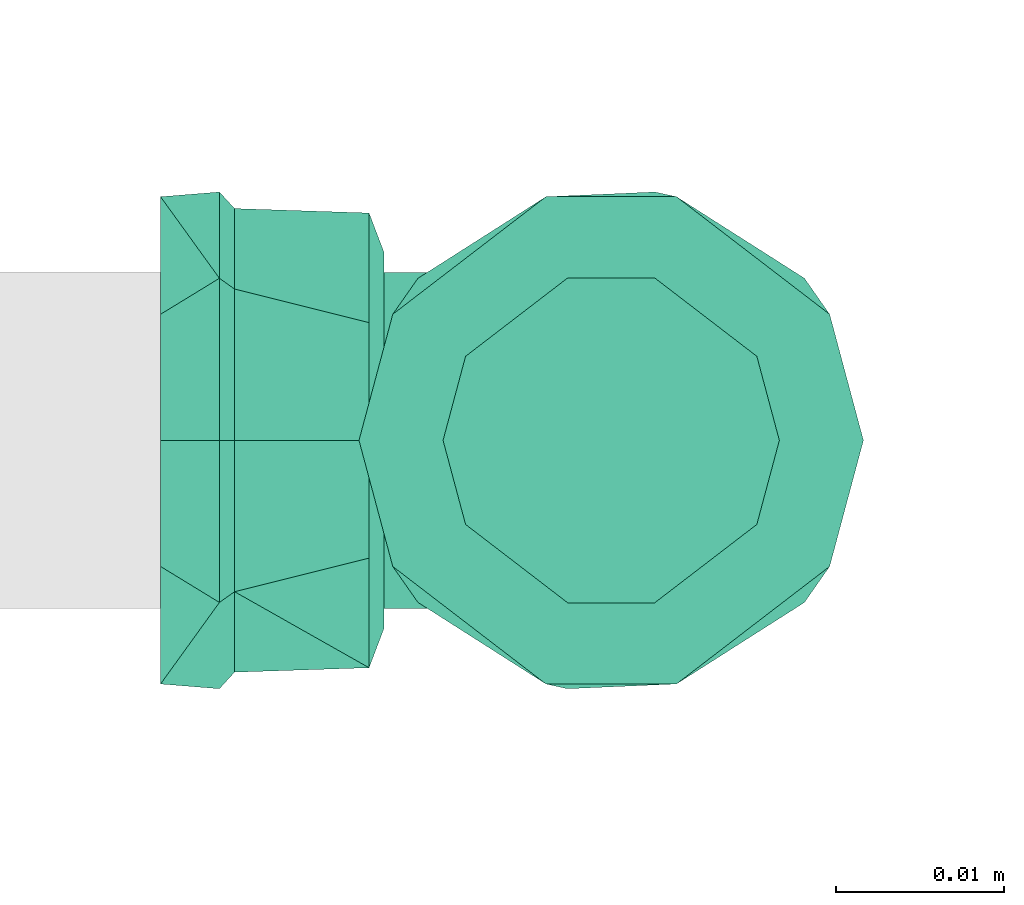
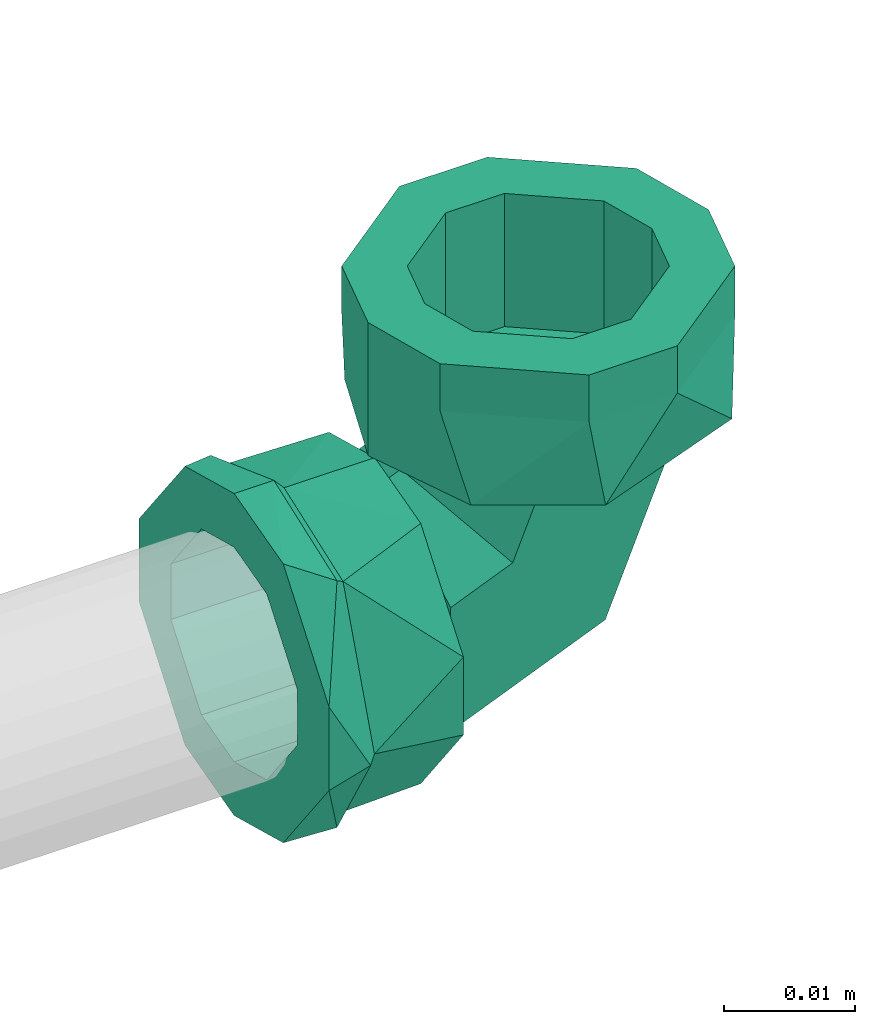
# One storey, part 309 of 589: 1 flow fitting.
"""IFC2X3 building model written with IfcOpenShell, lengths in millimetres."""

from ifc_helpers import new_model, entity, si_unit, converted_unit, derived_unit, direction, frame, origin, place, context, subcontext, project, spatial, faceted_brep, source, transform, mapped, material, type_object, type_shapes, element, save


model = new_model("IFC2X3")

# Units and contexts
model_context = context("Model", 3, precision=0.01, world=origin(), true_north=direction((6.123031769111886e-17, 1.0)))
body_context = subcontext(model_context, "Body", "Model", "MODEL_VIEW")
ifc_project = project(units=[si_unit("LENGTHUNIT", "METRE", prefix="MILLI"), si_unit("AREAUNIT", "SQUARE_METRE"), si_unit("VOLUMEUNIT", "CUBIC_METRE"), converted_unit("PLANEANGLEUNIT", "DEGREE", entity("IfcRatioMeasure", 0.017453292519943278), si_unit("PLANEANGLEUNIT", "RADIAN"), dimensions=[0, 0, 0, 0, 0, 0, 0]), si_unit("MASSUNIT", "GRAM", prefix="KILO"), derived_unit("MASSDENSITYUNIT", [(si_unit("MASSUNIT", "GRAM", prefix="KILO"), 1), (si_unit("LENGTHUNIT", "METRE"), -3)]), derived_unit("IONCONCENTRATIONUNIT", [(si_unit("MASSUNIT", "GRAM", prefix="KILO"), 1), (si_unit("LENGTHUNIT", "METRE"), -3)]), derived_unit("MOMENTOFINERTIAUNIT", [(si_unit("LENGTHUNIT", "METRE"), 4)]), si_unit("TIMEUNIT", "SECOND"), si_unit("FREQUENCYUNIT", "HERTZ"), si_unit("THERMODYNAMICTEMPERATUREUNIT", "DEGREE_CELSIUS"), derived_unit("THERMALTRANSMITTANCEUNIT", [(si_unit("MASSUNIT", "GRAM", prefix="KILO"), 1), (si_unit("THERMODYNAMICTEMPERATUREUNIT", "KELVIN"), -1), (si_unit("TIMEUNIT", "SECOND"), -3)]), derived_unit("THERMALCONDUCTANCEUNIT", [(si_unit("MASSUNIT", "GRAM", prefix="KILO"), 1), (si_unit("THERMODYNAMICTEMPERATUREUNIT", "KELVIN"), -1), (si_unit("TIMEUNIT", "SECOND"), -3), (si_unit("LENGTHUNIT", "METRE"), 1)]), derived_unit("VOLUMETRICFLOWRATEUNIT", [(si_unit("LENGTHUNIT", "METRE"), 3), (si_unit("TIMEUNIT", "SECOND"), -1)]), derived_unit("MASSFLOWRATEUNIT", [(si_unit("MASSUNIT", "GRAM", prefix="KILO"), 1), (si_unit("TIMEUNIT", "SECOND"), -1)]), derived_unit("ROTATIONALFREQUENCYUNIT", [(si_unit("TIMEUNIT", "SECOND"), -1)]), si_unit("ELECTRICCURRENTUNIT", "AMPERE"), si_unit("ELECTRICVOLTAGEUNIT", "VOLT"), si_unit("POWERUNIT", "WATT"), si_unit("FORCEUNIT", "NEWTON", prefix="KILO"), si_unit("ILLUMINANCEUNIT", "LUX"), si_unit("LUMINOUSFLUXUNIT", "LUMEN"), si_unit("LUMINOUSINTENSITYUNIT", "CANDELA"), derived_unit("USERDEFINED", [(si_unit("MASSUNIT", "GRAM", prefix="KILO"), -1), (si_unit("LENGTHUNIT", "METRE"), -2), (si_unit("TIMEUNIT", "SECOND"), 3), (si_unit("LUMINOUSFLUXUNIT", "LUMEN"), 1)]), derived_unit("USERDEFINED", [(si_unit("MASSUNIT", "GRAM", prefix="KILO"), 1), (si_unit("TIMEUNIT", "SECOND"), -3), (si_unit("LENGTHUNIT", "METRE"), 3), (si_unit("ELECTRICCURRENTUNIT", "AMPERE"), -2)]), derived_unit("SOUNDPOWERUNIT", [(si_unit("MASSUNIT", "GRAM", prefix="KILO"), 1), (si_unit("TIMEUNIT", "SECOND"), -3), (si_unit("LENGTHUNIT", "METRE"), 2)]), derived_unit("SOUNDPRESSUREUNIT", [(si_unit("MASSUNIT", "GRAM", prefix="KILO"), 1), (si_unit("LENGTHUNIT", "METRE"), -1), (si_unit("TIMEUNIT", "SECOND"), -2)]), derived_unit("LINEARVELOCITYUNIT", [(si_unit("LENGTHUNIT", "METRE"), 1), (si_unit("TIMEUNIT", "SECOND"), -1)]), si_unit("PRESSUREUNIT", "PASCAL"), derived_unit("USERDEFINED", [(si_unit("MASSUNIT", "GRAM", prefix="KILO"), 1), (si_unit("LENGTHUNIT", "METRE"), -2), (si_unit("TIMEUNIT", "SECOND"), -2)]), derived_unit("LINEARFORCEUNIT", [(si_unit("MASSUNIT", "GRAM", prefix="KILO"), 1), (si_unit("TIMEUNIT", "SECOND"), -2)]), derived_unit("PLANARFORCEUNIT", [(si_unit("MASSUNIT", "GRAM", prefix="KILO"), 1), (si_unit("LENGTHUNIT", "METRE"), -1), (si_unit("TIMEUNIT", "SECOND"), -2)]), derived_unit("SPECIFICHEATCAPACITYUNIT", [(si_unit("THERMODYNAMICTEMPERATUREUNIT", "KELVIN"), -1), (si_unit("LENGTHUNIT", "METRE"), 2), (si_unit("TIMEUNIT", "SECOND"), -2)]), derived_unit("HEATINGVALUEUNIT", [(si_unit("LENGTHUNIT", "METRE"), 2), (si_unit("TIMEUNIT", "SECOND"), -2)]), derived_unit("VAPORPERMEABILITYUNIT", [(si_unit("LENGTHUNIT", "METRE"), -1), (si_unit("TIMEUNIT", "SECOND"), 1)]), derived_unit("DYNAMICVISCOSITYUNIT", [(si_unit("MASSUNIT", "GRAM", prefix="KILO"), 1), (si_unit("TIMEUNIT", "SECOND"), -1), (si_unit("LENGTHUNIT", "METRE"), -1)]), derived_unit("THERMALEXPANSIONCOEFFICIENTUNIT", [(si_unit("THERMODYNAMICTEMPERATUREUNIT", "KELVIN"), -1)]), derived_unit("MODULUSOFELASTICITYUNIT", [(si_unit("MASSUNIT", "GRAM", prefix="KILO"), 1), (si_unit("LENGTHUNIT", "METRE"), -1), (si_unit("TIMEUNIT", "SECOND"), -2)]), derived_unit("ISOTHERMALMOISTURECAPACITYUNIT", [(si_unit("LENGTHUNIT", "METRE"), 3), (si_unit("MASSUNIT", "GRAM", prefix="KILO"), -1)]), derived_unit("MOISTUREDIFFUSIVITYUNIT", [(si_unit("TIMEUNIT", "SECOND"), -1), (si_unit("LENGTHUNIT", "METRE"), 2)])], contexts=[model_context])

# Site, building, storey
site_placement = place(None, origin())
site = spatial("IfcSite", under=ifc_project, at=site_placement, Name="Default", CompositionType="ELEMENT")
building_placement = place(site_placement, origin())
building = spatial("IfcBuilding", under=site, at=building_placement, CompositionType="ELEMENT")
storey_placement = place(building_placement, frame((0.0, 0.0, 100.0)))
storey = spatial("IfcBuildingStorey", under=building, at=storey_placement, Name="TÉRREO", CompositionType="ELEMENT", Elevation=100.0)

# Flow fitting
ifc_material = material(Name="PVC Azul")
pipe_fitting_type = type_object("IfcPipeFittingType", Name="PVC Marrom Soldável_Joelho 90° Azul com Bucha de Latão_Rodrigo MEP:Joelho_20x1/2''_ 25x1/2''_ 25x3/4'' _ 32x3/4''", PredefinedType="NOTDEFINED", material=ifc_material)
shared_shape = source(origin(), body_context, "Body", "Brep", [
    faceted_brep([(-14.399999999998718, 2.5881904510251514, -9.659258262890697), (-14.399999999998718, -2.588190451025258, -9.659258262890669), (-14.399999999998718, -3.623466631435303, -13.522961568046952), (-14.399999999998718, 3.6234666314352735, -13.522961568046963), (-14.399999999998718, 8.660254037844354, -5.0), (-14.399999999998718, -12.124355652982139, -7.0), (-14.399999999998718, -8.660254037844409, -5.0), (-14.399999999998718, -10.0, 0.0), (-14.399999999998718, -14.0, 0.0), (-14.399999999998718, -8.660254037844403, 5.0), (-14.399999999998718, -12.12435565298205, 7.0), (-14.399999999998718, -2.5881904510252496, 9.659258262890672), (-14.399999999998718, -3.623466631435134, 13.522961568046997), (-14.399999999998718, 2.5881904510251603, 9.659258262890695), (-14.399999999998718, 3.623466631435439, 13.522961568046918), (-14.399999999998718, 8.660254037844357, 5.0), (-14.399999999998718, 12.124355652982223, 7.0), (-14.399999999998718, 14.0, 0.0), (-14.399999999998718, 10.0, 0.0), (-14.399999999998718, 12.124355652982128, -7.0), (-22.39999999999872, 14.0, 0.0), (-22.399999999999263, 10.724120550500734, 8.999624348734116), (-22.3999999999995, 4.145562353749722, 11.393296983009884), (-22.399999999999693, -2.432995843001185, 13.786969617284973), (-22.39999999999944, -10.726377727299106, 8.99693396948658), (-22.39999999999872, -14.0, 0.0), (-22.39999999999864, -10.726377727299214, -8.996933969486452), (-22.39999999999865, -4.148420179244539, -11.392256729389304), (-22.39999999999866, 2.4295373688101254, -13.787579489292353), (-22.399999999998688, 10.724120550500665, -8.9996243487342), (-26.799999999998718, -10.0, 0.0), (-26.799999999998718, -8.660254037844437, 5.0), (-26.799999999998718, -2.5881904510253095, 9.659258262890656), (-26.799999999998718, 2.5881904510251, 9.659258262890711), (-26.799999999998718, 8.660254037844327, 5.0), (-26.799999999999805, 10.0, 0.0), (-26.799999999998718, 8.660254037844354, -5.0), (-26.799999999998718, 2.588190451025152, -9.659258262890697), (-26.799999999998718, -2.588190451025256, -9.659258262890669), (-26.799999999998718, -8.66025403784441, -5.0), (-23.29999999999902, -11.490129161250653, 9.64245465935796), (-23.29999999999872, -15.0, 0.0), (-23.29999999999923, -2.6030757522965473, 14.772406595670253), (-23.299999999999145, 11.492547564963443, 9.639572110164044), (-23.299999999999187, 4.444735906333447, 12.205989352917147), (-23.29999999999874, 15.0, 0.0), (-23.299999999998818, 11.492547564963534, -9.6395721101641), (-23.299999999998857, 2.6067812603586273, -14.771753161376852), (-23.299999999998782, -11.490129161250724, -9.642454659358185), (-23.299999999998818, -4.441673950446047, -12.20710391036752), (-26.799999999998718, -3.882285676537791, -14.488887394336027), (-26.799999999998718, -12.99038105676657, -7.500000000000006), (-26.799999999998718, 3.8822856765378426, -14.488887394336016), (-26.799999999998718, -15.0, 0.0), (-26.799999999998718, -12.990381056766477, 7.500000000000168), (-26.799999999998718, -3.882285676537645, 14.488887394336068), (-26.799999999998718, 3.8822856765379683, 14.488887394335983), (-26.799999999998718, 12.990381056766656, 7.499999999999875), (-26.799999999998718, 15.0, 0.0), (-26.799999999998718, 12.990381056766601, -7.49999999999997)], [[[0, 1, 2]], [[2, 3, 0]], [[4, 0, 3]], [[5, 2, 1]], [[1, 6, 5]], [[6, 7, 5]], [[8, 5, 7]], [[8, 7, 9]], [[10, 8, 9]], [[9, 11, 10]], [[11, 12, 10]], [[13, 12, 11]], [[12, 13, 14]], [[13, 15, 14]], [[16, 14, 15]], [[16, 15, 17]], [[17, 15, 18]], [[18, 4, 19]], [[17, 18, 19]], [[3, 19, 4]], [[20, 21, 16]], [[20, 16, 17]], [[16, 21, 14]], [[14, 21, 22, 23]], [[12, 23, 24]], [[10, 24, 25]], [[24, 10, 12]], [[10, 25, 8]], [[23, 12, 14]], [[25, 26, 5]], [[25, 5, 8]], [[5, 26, 2]], [[2, 26, 27, 28]], [[3, 28, 29]], [[19, 29, 20]], [[29, 19, 3]], [[19, 20, 17]], [[28, 3, 2]], [[9, 7, 30, 31]], [[11, 9, 31, 32]], [[32, 33, 13, 11]], [[15, 13, 33, 34]], [[18, 15, 34, 35]], [[4, 18, 35, 36]], [[0, 4, 36, 37]], [[37, 38, 1, 0]], [[6, 1, 38, 39]], [[7, 6, 39, 30]], [[24, 23, 40]], [[25, 24, 41]], [[41, 24, 40]], [[23, 42, 40]], [[21, 20, 43]], [[21, 43, 44]], [[22, 42, 23]], [[45, 43, 20]], [[42, 22, 44]], [[22, 21, 44]], [[20, 29, 46]], [[46, 45, 20]], [[47, 46, 29]], [[48, 49, 27]], [[29, 28, 47]], [[26, 25, 41]], [[48, 27, 26]], [[48, 26, 41]], [[28, 49, 47]], [[49, 28, 27]], [[50, 38, 37]], [[38, 50, 51]], [[37, 52, 50]], [[51, 39, 38]], [[51, 30, 39]], [[30, 51, 53]], [[31, 30, 53]], [[31, 53, 54]], [[54, 32, 31]], [[54, 55, 32]], [[32, 55, 33]], [[56, 33, 55]], [[56, 34, 33]], [[34, 56, 57]], [[58, 34, 57]], [[35, 34, 58]], [[59, 35, 58]], [[59, 36, 35]], [[36, 59, 52]], [[52, 37, 36]], [[58, 57, 45]], [[57, 43, 45]], [[43, 57, 56]], [[56, 42, 44, 43]], [[40, 55, 54]], [[41, 54, 53]], [[55, 40, 42]], [[40, 54, 41]], [[55, 42, 56]], [[53, 51, 41]], [[51, 48, 41]], [[48, 51, 50]], [[50, 47, 49, 48]], [[46, 52, 59]], [[45, 59, 58]], [[52, 46, 47]], [[46, 59, 45]], [[52, 47, 50]]]),
    faceted_brep([(-14.39999999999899, 14.0, 0.0), (-14.39999999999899, 12.124355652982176, -7.0), (-14.39999999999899, 3.623466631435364, -13.52296156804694), (-14.39999999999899, -3.6234666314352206, -13.52296156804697), (-14.39999999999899, -12.124355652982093, -7.0), (-14.39999999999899, -14.0, 0.0), (-14.39999999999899, -12.124355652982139, 7.0), (-14.39999999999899, -3.623466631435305, 13.522961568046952), (-14.39999999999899, 3.623466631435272, 13.522961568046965), (-14.39999999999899, 12.124355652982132, 7.0), (-13.499999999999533, -2.9880658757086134, 11.151613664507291), (-13.499999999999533, -9.99826328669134, 5.772499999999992), (-13.499999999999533, -11.544999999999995, 0.0), (-13.499999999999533, -9.998263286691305, -5.772500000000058), (-13.499999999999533, -2.988065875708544, -11.151613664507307), (-13.499999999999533, 2.9880658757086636, -11.15161366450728), (-13.499999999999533, 9.998263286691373, -5.772499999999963), (-13.499999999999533, 11.545000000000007, 0.0), (-13.499999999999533, 9.998263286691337, 5.772500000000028), (-13.499999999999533, 2.9880658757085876, 11.1516136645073)], [[[0, 1, 2, 3, 4, 5, 6, 7, 8, 9]], [[10, 11, 12, 13, 14, 15, 16, 17, 18, 19]], [[16, 15, 2, 1]], [[17, 16, 1, 0]], [[15, 14, 3, 2]], [[13, 12, 5, 4]], [[14, 13, 4, 3]], [[11, 10, 7, 6]], [[12, 11, 6, 5]], [[10, 19, 8, 7]], [[18, 17, 0, 9]], [[19, 18, 9, 8]]]),
    faceted_brep([(-2.9880658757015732, 13.49999999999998, 11.151613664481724), (-9.998263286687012, 13.49999999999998, 5.772499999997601), (-11.545000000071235, 13.49999999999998, 0.0), (-9.998263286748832, 13.49999999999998, -5.772500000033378), (-2.9880658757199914, 13.49999999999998, -11.151613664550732), (2.9880658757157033, 13.49999999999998, -11.15161366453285), (9.998263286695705, 13.49999999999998, -5.772500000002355), (11.544999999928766, 13.49999999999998, 0.0), (9.99826328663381, 13.49999999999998, 5.772499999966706), (2.9880658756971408, 13.49999999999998, 11.151613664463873), (11.490129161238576, 14.399999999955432, -9.642454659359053), (15.0, 14.399999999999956, 0.0), (2.6030757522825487, 14.399999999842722, -14.772406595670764), (-15.0, 14.399999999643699, 0.0), (-11.492547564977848, 14.399999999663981, -9.639572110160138), (-11.492547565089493, 14.40000000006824, 9.639572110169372), (-2.606781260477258, 14.400000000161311, 14.771753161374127), (11.490129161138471, 14.400000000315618, 9.642454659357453), (15.0, 22.39999999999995, 0.0), (13.99519052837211, 22.39999999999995, 3.750000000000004), (12.99038105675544, 22.39999999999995, 7.499999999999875), (15.0, 23.299999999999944, 0.0), (13.918673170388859, 23.299999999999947, 4.035566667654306), (12.990381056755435, 26.79999999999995, 7.4999999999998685), (15.0, 26.79999999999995, 0.0), (12.990381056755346, 23.299999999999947, 7.500000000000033), (8.436333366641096, 22.399999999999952, 10.994443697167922), (3.882285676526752, 22.39999999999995, 14.488887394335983), (-3.8822856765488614, 22.399999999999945, 14.488887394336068), (-8.436333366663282, 22.39999999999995, 10.994443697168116), (-12.9903810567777, 22.399999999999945, 7.500000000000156), (-13.995190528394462, 22.39999999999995, 3.750000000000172), (-15.0, 22.399999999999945, 0.0), (-12.990381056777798, 23.299999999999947, 7.499999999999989), (-13.995190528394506, 23.299999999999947, 3.7499999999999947), (-15.0, 26.79999999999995, 0.0), (-12.990381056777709, 26.79999999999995, 7.500000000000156), (-15.0, 23.299999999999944, 0.0), (0.0, 22.39999999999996, 14.488887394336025), (-13.995190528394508, 22.399999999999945, -3.750000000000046), (-12.990381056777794, 22.399999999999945, -7.499999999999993), (-13.918673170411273, 23.299999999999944, -4.035566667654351), (-12.990381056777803, 26.79999999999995, -7.499999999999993), (-12.99038105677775, 23.299999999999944, -7.500000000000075), (-8.43633336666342, 22.399999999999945, -10.994443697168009), (-3.882285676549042, 22.399999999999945, -14.488887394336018), (3.8822856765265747, 22.39999999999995, -14.48888739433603), (8.436333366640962, 22.39999999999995, -10.994443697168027), (12.990381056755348, 22.39999999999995, -7.500000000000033), (13.995190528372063, 22.39999999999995, -3.750000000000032), (12.990381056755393, 23.299999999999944, -7.499999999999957), (13.995190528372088, 23.299999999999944, -3.7499999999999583), (12.990381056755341, 26.79999999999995, -7.500000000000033), (0.0, 22.39999999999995, -14.488887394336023), (-3.8822856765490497, 23.29999999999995, 14.488887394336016), (-8.436333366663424, 23.299999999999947, 10.994443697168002), (-3.8822856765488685, 26.79999999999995, 14.488887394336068), (0.0, 23.29999999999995, 14.488887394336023), (3.8822856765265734, 23.29999999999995, 14.48888739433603), (3.8822856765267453, 26.79999999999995, 14.488887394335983), (8.436333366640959, 23.299999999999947, 10.994443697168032), (3.882285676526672, 23.299999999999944, -14.488887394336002), (8.436333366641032, 23.299999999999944, -10.994443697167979), (3.882285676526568, 26.79999999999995, -14.48888739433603), (0.0, 23.299999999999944, -14.488887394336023), (-3.8822856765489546, 23.299999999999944, -14.488887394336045), (-3.882285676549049, 26.79999999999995, -14.488887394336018), (-8.436333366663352, 23.299999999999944, -10.99444369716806), (-2.588190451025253, 26.79999999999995, -9.659258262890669), (2.588190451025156, 26.79999999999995, -9.659258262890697), (-8.660254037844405, 26.79999999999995, -5.0), (-10.0, 26.79999999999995, 0.0), (-8.660254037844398, 26.79999999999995, 5.0), (-2.5881904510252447, 26.79999999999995, 9.659258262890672), (2.588190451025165, 26.79999999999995, 9.659258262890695), (8.660254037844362, 26.79999999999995, 5.0), (10.0, 26.79999999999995, 0.0), (8.660254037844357, 26.79999999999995, -5.0), (-8.660254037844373, 14.399999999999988, -5.0), (-10.0, 14.399999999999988, 0.0), (-8.660254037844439, 14.399999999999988, 5.0), (-2.5881904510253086, 14.399999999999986, 9.659258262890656), (2.5881904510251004, 14.399999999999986, 9.659258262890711), (8.660254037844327, 14.399999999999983, 5.0), (10.0, 14.399999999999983, 0.0), (8.660254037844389, 14.399999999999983, -5.0), (2.5881904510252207, 14.399999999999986, -9.65925826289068), (-2.588190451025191, 14.399999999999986, -9.659258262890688)], [[[0, 1, 2, 3, 4, 5, 6, 7, 8, 9]], [[6, 5, 10]], [[7, 6, 11]], [[11, 6, 10]], [[5, 12, 10]], [[3, 2, 13]], [[4, 3, 14]], [[4, 14, 12]], [[14, 3, 13]], [[4, 12, 5]], [[1, 0, 15]], [[2, 1, 13]], [[13, 1, 15]], [[0, 16, 15]], [[8, 7, 11]], [[9, 8, 17]], [[9, 17, 16]], [[17, 8, 11]], [[9, 16, 0]], [[11, 18, 19]], [[11, 19, 20]], [[21, 19, 18]], [[21, 22, 19]], [[23, 22, 21]], [[21, 24, 23]], [[23, 25, 22]], [[22, 25, 20]], [[22, 20, 19]], [[20, 17, 11]], [[17, 20, 26, 27]], [[17, 27, 16]], [[15, 28, 29, 30]], [[13, 30, 31]], [[13, 31, 32]], [[31, 30, 33]], [[31, 33, 34]], [[35, 34, 33]], [[33, 36, 35]], [[35, 37, 34]], [[32, 34, 37]], [[34, 32, 31]], [[28, 15, 16]], [[15, 30, 13]], [[16, 27, 38, 28]], [[13, 32, 39]], [[13, 39, 40]], [[37, 39, 32]], [[37, 41, 39]], [[42, 41, 37]], [[37, 35, 42]], [[42, 43, 41]], [[41, 43, 40]], [[41, 40, 39]], [[40, 14, 13]], [[14, 40, 44, 45]], [[14, 45, 12]], [[10, 46, 47, 48]], [[11, 48, 49]], [[11, 49, 18]], [[49, 48, 50]], [[49, 50, 51]], [[24, 51, 50]], [[50, 52, 24]], [[24, 21, 51]], [[18, 51, 21]], [[51, 18, 49]], [[46, 10, 12]], [[10, 48, 11]], [[12, 45, 53, 46]], [[54, 55, 29]], [[54, 29, 28]], [[36, 55, 54]], [[54, 56, 36]], [[36, 33, 55]], [[30, 55, 33]], [[55, 30, 29]], [[27, 57, 38]], [[57, 27, 58]], [[56, 57, 58]], [[59, 56, 58]], [[56, 54, 57]], [[57, 54, 28]], [[57, 28, 38]], [[20, 60, 26]], [[20, 25, 60]], [[59, 60, 25]], [[25, 23, 59]], [[59, 58, 60]], [[58, 26, 60]], [[27, 26, 58]], [[61, 62, 47]], [[61, 47, 46]], [[52, 62, 61]], [[61, 63, 52]], [[52, 50, 62]], [[48, 62, 50]], [[62, 48, 47]], [[45, 64, 53]], [[64, 45, 65]], [[63, 64, 65]], [[66, 63, 65]], [[63, 61, 64]], [[64, 61, 46]], [[64, 46, 53]], [[40, 67, 44]], [[40, 43, 67]], [[66, 67, 43]], [[43, 42, 66]], [[66, 65, 67]], [[65, 44, 67]], [[45, 44, 65]], [[66, 68, 69]], [[68, 66, 42]], [[69, 63, 66]], [[42, 70, 68]], [[42, 71, 70]], [[71, 42, 35]], [[72, 71, 35]], [[72, 35, 36]], [[36, 73, 72]], [[36, 56, 73]], [[73, 56, 74]], [[59, 74, 56]], [[59, 75, 74]], [[75, 59, 23]], [[24, 75, 23]], [[76, 75, 24]], [[52, 76, 24]], [[52, 77, 76]], [[77, 52, 63]], [[63, 69, 77]], [[78, 79, 80, 81, 82, 83, 84, 85, 86, 87]], [[80, 79, 71, 72]], [[81, 80, 72, 73]], [[73, 74, 82, 81]], [[83, 82, 74, 75]], [[84, 83, 75, 76]], [[85, 84, 76, 77]], [[86, 85, 77, 69]], [[69, 68, 87, 86]], [[78, 87, 68, 70]], [[79, 78, 70, 71]]]),
    faceted_brep([(4.209489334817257, -4.209489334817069, 0.0), (0.1277154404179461, -0.12771544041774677, 9.998263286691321), (-13.49999999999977, -5.772500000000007, 9.998263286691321), (-13.49999999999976, -11.544999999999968, 0.0), (-8.035832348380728, 8.035832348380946, 9.998263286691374), (-13.499999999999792, 5.772499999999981, 9.998263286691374), (-12.117606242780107, 12.117606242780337, 0.0), (-13.499999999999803, 11.545000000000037, 0.0), (-8.035832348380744, 8.035832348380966, -9.998263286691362), (-13.49999999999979, 5.772500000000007, -9.998263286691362), (0.12771544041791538, -0.12771544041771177, -9.998263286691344), (-13.499999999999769, -5.772499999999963, -9.998263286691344), (11.545000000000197, 13.499999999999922, 0.0), (5.772500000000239, 13.499999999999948, 9.998263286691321), (-5.77249999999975, 13.500000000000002, 9.998263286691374), (-11.544999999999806, 13.500000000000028, 0.0), (-5.772499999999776, 13.500000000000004, -9.998263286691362), (5.772500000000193, 13.49999999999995, -9.998263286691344)], [[[0, 1, 2, 3]], [[1, 4, 5, 2]], [[4, 6, 7, 5]], [[6, 8, 9, 7]], [[8, 10, 11, 9]], [[10, 0, 3, 11]], [[12, 13, 1, 0]], [[13, 14, 4, 1]], [[14, 15, 6, 4]], [[15, 16, 8, 6]], [[16, 17, 10, 8]], [[17, 12, 0, 10]], [[3, 2, 5, 7, 9, 11]], [[17, 16, 15, 14, 13, 12]]]),
])
type_shapes(pipe_fitting_type, [shared_shape])
flow_fitting_placement = place(storey_placement, frame((-5889.895534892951, -7547.5312838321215, -104.85493019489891), z_axis=(0.0, -1.0, 0.0), x_axis=(1.0, 0.0, 0.0)))
element("IfcFlowFitting", 1, at=flow_fitting_placement, inside=storey, type_object=pipe_fitting_type, material=ifc_material, Name="PVC Marrom Soldável_Joelho 90° Azul com Bucha de Latão_Rodrigo MEP:Joelho_20x1/2''_ 25x1/2''_ 25x3/4'' _ 32x3/4''", ObjectType="PVC Marrom Soldável_Joelho 90° Azul com Bucha de Latão_Rodrigo MEP:Joelho_20x1/2''_ 25x1/2''_ 25x3/4'' _ 32x3/4''", context=body_context, shape_type="MappedRepresentation", body=[
    mapped(shared_shape, transform((0.0, 0.0, 0.0), scale=1.0)),
])

save(model, "model.ifc")
